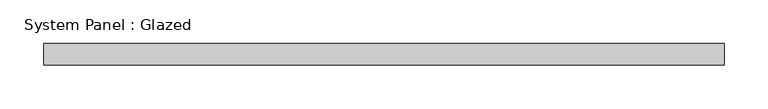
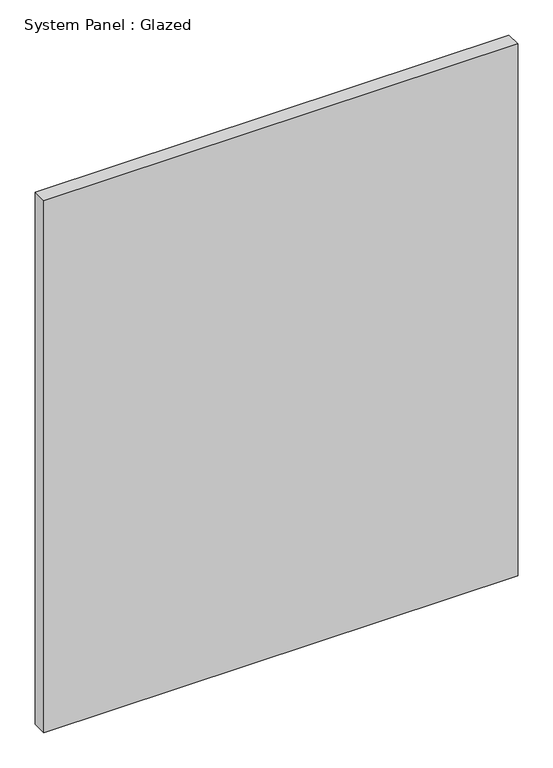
"""IFC4 building model written with IfcOpenShell, lengths in millimetres: plate geometry, System Panel : Glazed."""

from ifc_helpers import new_model, si_unit, origin, origin_with_axes, place, context, project, spatial, polyline, outline, extrude, source, transform, mapped, element, save


def system_panel_glazed_0de45067(model_context):
    return source(origin(), model_context, "Body", "SweptSolid", [
        extrude(outline(polyline([(389.9146548, 24.5), (-389.9146548, 24.5), (-389.9146548, 49.5), (389.9146548, 49.5), (389.9146548, 24.5)])), origin_with_axes(), (0.0, 0.0, 1.0), 925.0),
    ])


if __name__ == "__main__":
    model = new_model("IFC4")
    model_context = context("Model", 3, world=origin())
    ifc_project = project(units=[si_unit("LENGTHUNIT", "METRE", prefix="MILLI")], contexts=[model_context])
    site = spatial("IfcSite", under=ifc_project)
    building = spatial("IfcBuilding", under=site)
    placement = place(None, origin())
    system_panel_glazed_shape = system_panel_glazed_0de45067(model_context)
    element("IfcPlate", 1, ObjectType="System Panel : Glazed", at=placement, inside=building, context=model_context, shape_type="MappedRepresentation", body=[
        mapped(system_panel_glazed_shape, transform((0.0, 0.0, 0.0), x_axis=(1.0, 0.0, 0.0), y_axis=(0.0, 1.0, 0.0), z_axis=(0.0, 0.0, 1.0))),
    ])
    save(model, "model.ifc")
